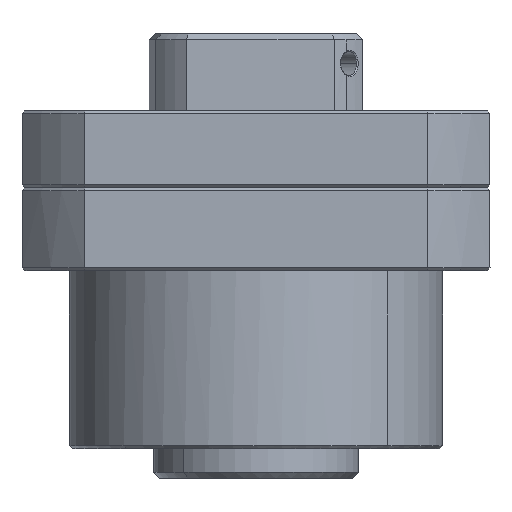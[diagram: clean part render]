
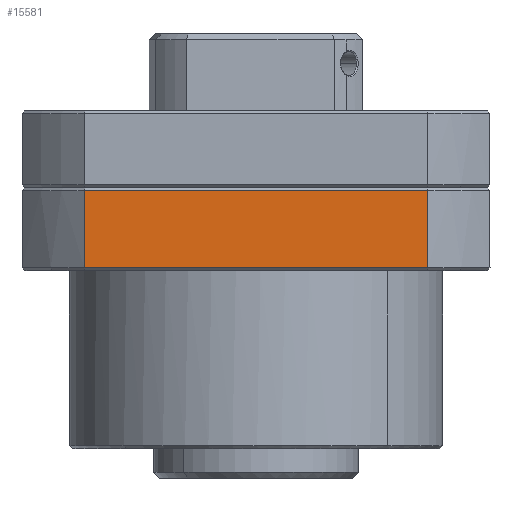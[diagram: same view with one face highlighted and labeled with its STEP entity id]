
A CAD part, front view. The second image highlights one B-rep face of the part: STEP entity #15581.
In plain terms, the highlighted planar face has unit normal (0, -1, 0).
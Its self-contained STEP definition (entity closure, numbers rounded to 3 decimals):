
#43 = EDGE_CURVE ( 'NONE', #10276, #14790, #14726, .T. ) ;
#354 = DIRECTION ( 'NONE',  ( 0., 1., 0. ) ) ;
#999 = VERTEX_POINT ( 'NONE', #3579 ) ;
#1479 = CARTESIAN_POINT ( 'NONE',  ( 14.348, -44.237, 8.5 ) ) ;
#1494 = ORIENTED_EDGE ( 'NONE', *, *, #2408, .F. ) ;
#1628 = CARTESIAN_POINT ( 'NONE',  ( 14.348, -44.237, 8.5 ) ) ;
#2408 = EDGE_CURVE ( 'NONE', #3816, #10276, #4449, .T. ) ;
#2616 = CARTESIAN_POINT ( 'NONE',  ( -24.313, -44.237, 21.5 ) ) ;
#2865 = B_SPLINE_CURVE_WITH_KNOTS ( 'NONE', 3,
 ( #10086, #13835, #7399, #4980 ),
 .UNSPECIFIED., .F., .F.,
 ( 4, 4 ),
 ( 0., 1. ),
 .UNSPECIFIED. ) ;
#3579 = CARTESIAN_POINT ( 'NONE',  ( -43.643, -44.237, 8.5 ) ) ;
#3735 = B_SPLINE_CURVE_WITH_KNOTS ( 'NONE', 3,
 ( #6013, #10360, #10611, #5256 ),
 .UNSPECIFIED., .F., .F.,
 ( 4, 4 ),
 ( 0., 1. ),
 .UNSPECIFIED. ) ;
#3816 = VERTEX_POINT ( 'NONE', #10140 ) ;
#3879 = CARTESIAN_POINT ( 'NONE',  ( 14.348, -44.237, 12.833 ) ) ;
#4449 = B_SPLINE_CURVE_WITH_KNOTS ( 'NONE', 3,
 ( #4952, #2616, #7706, #12794 ),
 .UNSPECIFIED., .F., .F.,
 ( 4, 4 ),
 ( 0., 1. ),
 .UNSPECIFIED. ) ;
#4952 = CARTESIAN_POINT ( 'NONE',  ( -43.643, -44.237, 21.5 ) ) ;
#4980 = CARTESIAN_POINT ( 'NONE',  ( -43.643, -44.237, 8.5 ) ) ;
#5256 = CARTESIAN_POINT ( 'NONE',  ( -43.643, -44.237, 21.5 ) ) ;
#5260 = AXIS2_PLACEMENT_3D ( 'NONE', #1628, #354, #10556 ) ;
#5534 = CARTESIAN_POINT ( 'NONE',  ( 14.348, -44.237, 8.5 ) ) ;
#6013 = CARTESIAN_POINT ( 'NONE',  ( -43.643, -44.237, 8.5 ) ) ;
#6895 = CARTESIAN_POINT ( 'NONE',  ( 14.348, -44.237, 21.5 ) ) ;
#7399 = CARTESIAN_POINT ( 'NONE',  ( -24.313, -44.237, 8.5 ) ) ;
#7675 = EDGE_CURVE ( 'NONE', #999, #3816, #3735, .T. ) ;
#7706 = CARTESIAN_POINT ( 'NONE',  ( -4.982, -44.237, 21.5 ) ) ;
#8508 = ORIENTED_EDGE ( 'NONE', *, *, #43, .F. ) ;
#10086 = CARTESIAN_POINT ( 'NONE',  ( 14.348, -44.237, 8.5 ) ) ;
#10140 = CARTESIAN_POINT ( 'NONE',  ( -43.643, -44.237, 21.5 ) ) ;
#10276 = VERTEX_POINT ( 'NONE', #6895 ) ;
#10360 = CARTESIAN_POINT ( 'NONE',  ( -43.643, -44.237, 12.833 ) ) ;
#10556 = DIRECTION ( 'NONE',  ( 1., 0., 0. ) ) ;
#10611 = CARTESIAN_POINT ( 'NONE',  ( -43.643, -44.237, 17.167 ) ) ;
#12794 = CARTESIAN_POINT ( 'NONE',  ( 14.348, -44.237, 21.5 ) ) ;
#12808 = CARTESIAN_POINT ( 'NONE',  ( 14.348, -44.237, 21.5 ) ) ;
#13045 = PLANE ( 'NONE',  #5260 ) ;
#13099 = ORIENTED_EDGE ( 'NONE', *, *, #15230, .F. ) ;
#13835 = CARTESIAN_POINT ( 'NONE',  ( -4.982, -44.237, 8.5 ) ) ;
#14223 = FACE_OUTER_BOUND ( 'NONE', #14752, .T. ) ;
#14726 = B_SPLINE_CURVE_WITH_KNOTS ( 'NONE', 3,
 ( #12808, #16251, #3879, #1479 ),
 .UNSPECIFIED., .F., .F.,
 ( 4, 4 ),
 ( 0., 1. ),
 .UNSPECIFIED. ) ;
#14752 = EDGE_LOOP ( 'NONE', ( #16288, #13099, #8508, #1494 ) ) ;
#14790 = VERTEX_POINT ( 'NONE', #5534 ) ;
#15230 = EDGE_CURVE ( 'NONE', #14790, #999, #2865, .T. ) ;
#15581 = ADVANCED_FACE ( 'NONE', ( #14223 ), #13045, .F. ) ;
#16251 = CARTESIAN_POINT ( 'NONE',  ( 14.348, -44.237, 17.167 ) ) ;
#16288 = ORIENTED_EDGE ( 'NONE', *, *, #7675, .F. ) ;
